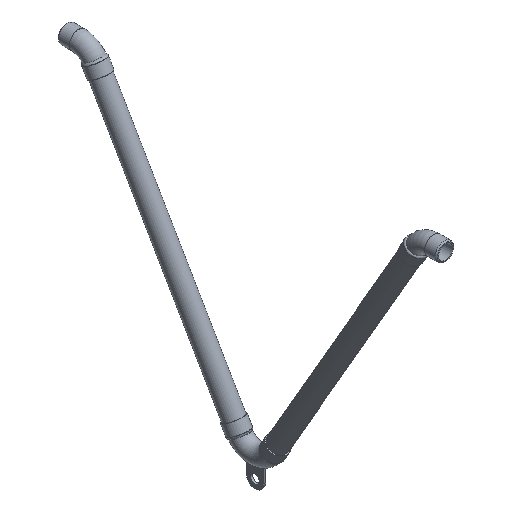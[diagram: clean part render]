
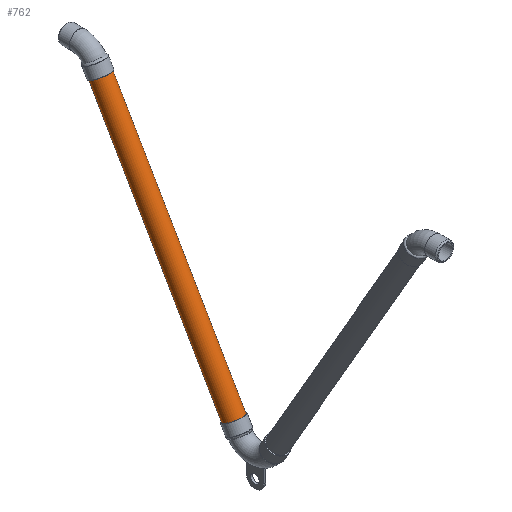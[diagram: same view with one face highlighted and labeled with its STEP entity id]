
A CAD part, isometric view. The second image highlights one B-rep face of the part: STEP entity #762.
In plain terms, the highlighted cylindrical face has radius 13.64 mm (diameter 27.28 mm), a full revolution.
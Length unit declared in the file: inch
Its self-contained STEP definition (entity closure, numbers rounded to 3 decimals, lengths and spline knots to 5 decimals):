
#60=CYLINDRICAL_SURFACE('',#855,0.537);
#121=FACE_BOUND('',#261,.T.);
#182=FACE_OUTER_BOUND('',#260,.T.);
#260=EDGE_LOOP('',(#586));
#261=EDGE_LOOP('',(#587));
#359=CIRCLE('',#856,0.537);
#360=CIRCLE('',#857,0.537);
#423=VERTEX_POINT('',#1261);
#424=VERTEX_POINT('',#1263);
#491=EDGE_CURVE('',#423,#423,#359,.T.);
#492=EDGE_CURVE('',#424,#424,#360,.T.);
#586=ORIENTED_EDGE('',*,*,#491,.T.);
#587=ORIENTED_EDGE('',*,*,#492,.F.);
#762=ADVANCED_FACE('',(#182,#121),#60,.T.);
#855=AXIS2_PLACEMENT_3D('',#1260,#1026,#1027);
#856=AXIS2_PLACEMENT_3D('',#1262,#1028,#1029);
#857=AXIS2_PLACEMENT_3D('',#1264,#1030,#1031);
#1026=DIRECTION('center_axis',(0.,0.5,
0.866));
#1027=DIRECTION('ref_axis',(-0.418,0.787,-0.454));
#1028=DIRECTION('center_axis',(0.,-0.5,
-0.866));
#1029=DIRECTION('ref_axis',(-0.418,0.787,-0.454));
#1030=DIRECTION('center_axis',(0.,-0.5,
-0.866));
#1031=DIRECTION('ref_axis',(-0.418,0.787,-0.454));
#1260=CARTESIAN_POINT('Origin',(0.,0.97428,
-15.0375));
#1261=CARTESIAN_POINT('',(0.22453,8.90882,-0.31885));
#1262=CARTESIAN_POINT('Origin',(0.,9.33128,
-0.56275));
#1263=CARTESIAN_POINT('',(0.22453,0.55182,-14.7936));
#1264=CARTESIAN_POINT('Origin',(0.,0.97428,
-15.0375));
